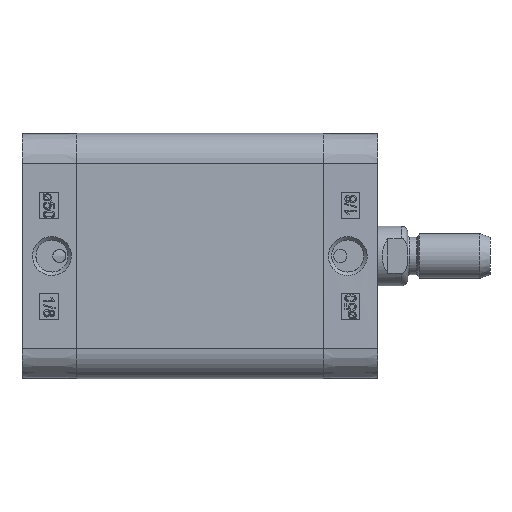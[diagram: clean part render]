
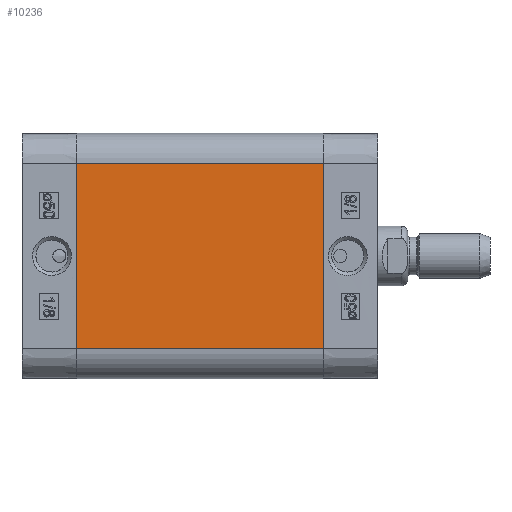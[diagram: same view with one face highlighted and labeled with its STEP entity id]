
A CAD part, left-side view. The second image highlights one B-rep face of the part: STEP entity #10236.
In plain terms, the highlighted planar face has unit normal (-1, 0, 0).
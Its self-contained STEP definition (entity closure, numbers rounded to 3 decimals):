
#5238=CARTESIAN_POINT('',(-32.75,-66.0,24.75));
#5239=VERTEX_POINT('',#5238);
#5246=CARTESIAN_POINT('',(-32.75,-66.0,-24.75));
#5247=VERTEX_POINT('',#5246);
#5248=CARTESIAN_POINT('',(-32.75,-66.0,-24.75));
#5249=DIRECTION('',(0.0,0.0,1.0));
#5250=VECTOR('',#5249,49.5);
#5251=LINE('',#5248,#5250);
#5252=EDGE_CURVE('',#5247,#5239,#5251,.T.);
#10194=CARTESIAN_POINT('',(-32.75,0.0,-24.75));
#10195=VERTEX_POINT('',#10194);
#10196=CARTESIAN_POINT('',(-32.75,0.0,-24.75));
#10197=DIRECTION('',(0.0,-1.0,0.0));
#10198=VECTOR('',#10197,66.0);
#10199=LINE('',#10196,#10198);
#10200=EDGE_CURVE('',#10195,#5247,#10199,.T.);
#10213=CARTESIAN_POINT('',(-32.75,0.0,-24.75));
#10214=DIRECTION('',(-1.0,0.0,0.0));
#10215=DIRECTION('',(0.0,0.0,1.0));
#10216=AXIS2_PLACEMENT_3D('',#10213,#10214,#10215);
#10217=PLANE('',#10216);
#10218=ORIENTED_EDGE('',*,*,#5252,.T.);
#10219=CARTESIAN_POINT('',(-32.75,0.0,24.75));
#10220=VERTEX_POINT('',#10219);
#10221=CARTESIAN_POINT('',(-32.75,0.0,24.75));
#10222=DIRECTION('',(0.0,-1.0,0.0));
#10223=VECTOR('',#10222,66.0);
#10224=LINE('',#10221,#10223);
#10225=EDGE_CURVE('',#10220,#5239,#10224,.T.);
#10226=ORIENTED_EDGE('',*,*,#10225,.F.);
#10227=CARTESIAN_POINT('',(-32.75,0.0,-24.75));
#10228=DIRECTION('',(0.0,0.0,1.0));
#10229=VECTOR('',#10228,49.5);
#10230=LINE('',#10227,#10229);
#10231=EDGE_CURVE('',#10195,#10220,#10230,.T.);
#10232=ORIENTED_EDGE('',*,*,#10231,.F.);
#10233=ORIENTED_EDGE('',*,*,#10200,.T.);
#10234=EDGE_LOOP('',(#10218,#10226,#10232,#10233));
#10235=FACE_OUTER_BOUND('',#10234,.T.);
#10236=ADVANCED_FACE('',(#10235),#10217,.T.);
